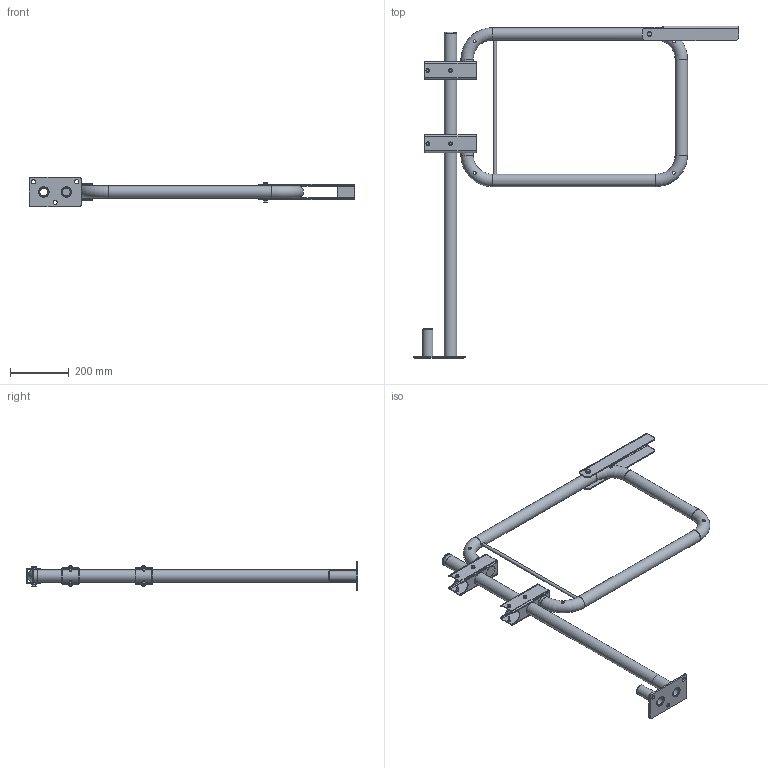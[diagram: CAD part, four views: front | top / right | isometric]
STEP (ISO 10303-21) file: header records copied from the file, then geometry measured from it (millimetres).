
FILE_DESCRIPTION((''),'2;1');
FILE_NAME('S:\Användarkataloger\AndreasA\Mina Inventor filer\Räcken\STEP\grind_ind_topp_850.stp','2010-09-07T14:02:51',('AndreasA'),(''),'Autodesk Inventor 2011','Autodesk Inventor 2011','');
FILE_SCHEMA(('AUTOMOTIVE_DESIGN { 1 0 10303 214 1 1 1 1 }'));
Length unit declared in the file: millimetre
Products named in the file (16): grind_ind_topp_850; stolpe_grind_1100; ändavslutare_42,4x2; gångjärn_grind; grindbåge_ind_850; rör_grindbåge_ind_850; rund11_grindbåge_ind; låsbygel_grind; fäste_R4; bricka_r4; rör_fäste_r3_r4; Bolted Connection; SS 3576 8; ISO 4014 M8 x 65; ISO 4032 M8; Hex Flange Head Tapping Screw - Type T - Metric M6x1 x 16
Assembly tree (25 placements, depth 3):
  grind_ind_topp_850
    stolpe_grind_1100
    ändavslutare_42,4x2
    gångjärn_grind  x2
    grindbåge_ind_850
      rör_grindbåge_ind_850
      rund11_grindbåge_ind
    låsbygel_grind
    fäste_R4
      bricka_r4
      rör_fäste_r3_r4  x2
    Bolted Connection
      SS 3576 8  x2
      ISO 4014 M8 x 65
      ISO 4032 M8
    Hex Flange Head Tapping Screw - Type T - Metric M6x1 x 16  x8
Bounding box: 1111.2 x 1133 x 100 mm (x, y, z)
Volume: 1390859.4 mm3; surface area: 1131851.3 mm2
Topology: 22 solids, 22 shells, 384 faces, 870 edges, 537 vertices
Faces by surface type: plane 173, cylinder 101, cone 79, torus 25, bspline 6
Full cylindrical faces by diameter (mm): 6 x8, 6.647 x1, 7 x8, 8 x1, 8.4 x2, 10 x12, 11 x1, 11.63 x1, 14.5 x3, 16 x2, 27 x2, 35 x2, 36 x2, 38.4 x7, 42.4 x7, 45 x6
Entity records: 7190 total; most frequent: CARTESIAN_POINT 2343, DIRECTION 950, ORIENTED_EDGE 792, EDGE_CURVE 396, AXIS2_PLACEMENT_3D 391, EDGE_LOOP 332, VERTEX_POINT 286, FACE_OUTER_BOUND 202
